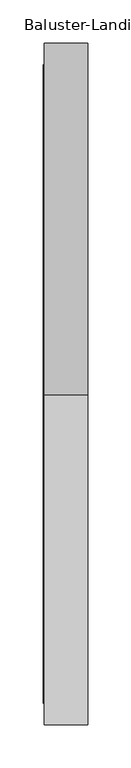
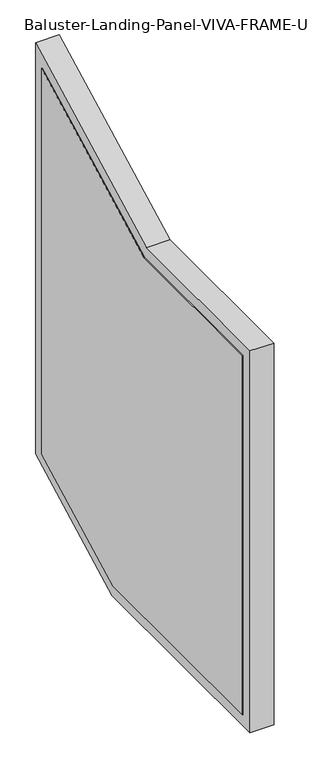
"""IFC4 building model written with IfcOpenShell, lengths in millimetres: railing geometry, Baluster-Landing-Panel-VIVA-FRAME-Upper : Standard_PP01."""

from ifc_helpers import new_model, si_unit, frame, origin, place, context, project, spatial, polyline, outline, extrude, faceted_brep, source, transform, mapped, element, save


def baluster_landing_panel_viva_frame_upper_standard_pp01_eb854fba(model_context):
    return source(origin(), model_context, "Body", "SolidModel", [
        extrude(outline(polyline([(191.9097865, 93.7738148), (191.9097865, 903.224), (555.9876925, 903.224), (933.9372584, 1099.9720908), (933.9372584, 231.2197752), (669.906025, 93.7738148), (191.9097865, 93.7738148)])), frame((62.2681, 0.0, 0.0), z_axis=(1.0, 0.0, 0.0), x_axis=(0.0, 1.0, 0.0)), (0.0, 0.0, 1.0), 2.9972),
        faceted_brep([(63.7667, 549.772352, 928.624), (63.7667, 166.5097865, 928.624), (114.5667, 166.5097865, 928.624), (114.5667, 549.772352, 928.624), (63.7667, 166.5097865, 68.3738148), (114.5667, 166.5097865, 68.3738148), (114.5667, 676.1213655, 68.3738148), (114.5667, 959.3372584, 215.8066768), (114.5667, 959.3372584, 1141.8299953), (114.5667, 953.3428584, 219.4441681), (114.5667, 674.6545451, 74.3682148), (114.5667, 172.5041865, 74.3682148), (114.5667, 172.5041865, 922.6296), (114.5667, 551.2391723, 922.6296), (114.5667, 953.3428584, 1131.9515299), (63.7667, 676.1213655, 68.3738148), (63.7667, 959.3372584, 215.8066768), (63.7667, 959.3372584, 1141.8299953), (63.7667, 217.3097865, 877.824), (63.7667, 217.3097865, 119.1738148), (63.7667, 663.6906845, 119.1738148), (63.7667, 908.5372584, 246.6328736), (63.7667, 908.5372584, 1058.1141863), (63.7667, 562.2030329, 877.824), (83.7565, 562.2030329, 877.824), (83.7565, 217.3097865, 877.824), (83.7565, 217.3097865, 119.1738148), (83.7565, 663.6906845, 119.1738148), (83.7565, 172.5041865, 922.6296), (83.7565, 172.5041865, 74.3682148), (83.7565, 674.6545451, 74.3682148), (83.7565, 953.3428584, 219.4441681), (83.7565, 953.3428584, 1131.9515299), (83.7565, 551.2391723, 922.6296), (83.7565, 908.5372584, 246.6328736), (83.7565, 908.5372584, 1058.1141863)], [[[0, 1, 2, 3]], [[1, 4, 5, 2]], [[2, 5, 6, 7, 8, 3], [9, 10, 11, 12, 13, 14]], [[4, 15, 6, 5]], [[16, 15, 4, 1, 0, 17], [18, 19, 20, 21, 22, 23]], [[24, 25, 18, 23]], [[25, 26, 19, 18]], [[26, 27, 20, 19]], [[28, 29, 30, 31, 32, 33], [34, 27, 26, 25, 24, 35]], [[13, 12, 28, 33]], [[12, 11, 29, 28]], [[11, 10, 30, 29]], [[15, 16, 7, 6]], [[27, 34, 21, 20]], [[10, 9, 31, 30]], [[16, 17, 8, 7]], [[34, 35, 22, 21]], [[9, 14, 32, 31]], [[17, 0, 3, 8]], [[35, 24, 23, 22]], [[14, 13, 33, 32]]]),
    ])


if __name__ == "__main__":
    model = new_model("IFC4")
    model_context = context("Model", 3, world=origin())
    ifc_project = project(units=[si_unit("LENGTHUNIT", "METRE", prefix="MILLI")], contexts=[model_context])
    site = spatial("IfcSite", under=ifc_project)
    building = spatial("IfcBuilding", under=site)
    placement = place(None, origin())
    baluster_landing_panel_viva_frame_upper_standard_pp01_shape = baluster_landing_panel_viva_frame_upper_standard_pp01_eb854fba(model_context)
    element("IfcRailing", 1, ObjectType="Baluster-Landing-Panel-VIVA-FRAME-Upper : Standard_PP01", at=placement, inside=building, context=model_context, shape_type="MappedRepresentation", body=[
        mapped(baluster_landing_panel_viva_frame_upper_standard_pp01_shape, transform((0.0, 0.0, 0.0), x_axis=(1.0, 0.0, 0.0), y_axis=(0.0, 1.0, 0.0), z_axis=(0.0, 0.0, 1.0))),
    ])
    save(model, "model.ifc")
